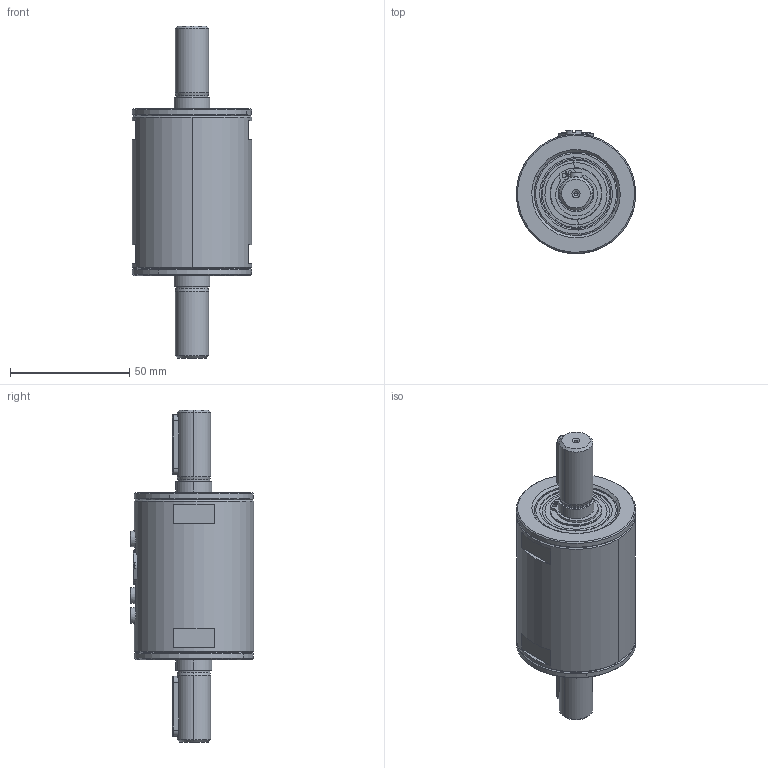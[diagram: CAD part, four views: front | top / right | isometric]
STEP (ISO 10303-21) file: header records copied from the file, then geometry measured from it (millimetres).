
FILE_DESCRIPTION (( 'STEP AP203' ), '1' );
FILE_NAME ('400006-ATS007-75Nm-15mm-Rund.STEP', '2017-02-20T10:10:04', ( '' ), ( '' ), 'SwSTEP 2.0', 'SolidWorks 2016', '' );
FILE_SCHEMA (( 'CONFIG_CONTROL_DESIGN' ));
Length unit declared in the file: millimetre
Products named in the file (15): 400006-ATE009-Binder-712-0416-90-05; Circlip DIN 471 - 15 x 1_Circlip DIN 471 - 15 x 1; 400006-ATM021_Lagerdeckel-15mm; 999999-ATM001_Tellerfeder_k_vorgespannt34,6x22,4x0,5_Standard; 400006-ATM023_Welle 15mm Rund; 400006-ATS021-PCB12_mit_Stecker_Welle 15mm; 999999-ATN172_Rillenkugellager_6202-2Z_Standard; 400006-ATM002-Mutter-Binder-Stecker; Parallel key A5 x 5 x 25 DIN 6885_Parallel key A5 x 5 x 25 DIN 6885; ISO 1207 - M4 x 4 --- 4S_ISO 1207 - M4 x 4 --- 4S; DIN 988-25x35x0.5_DIN 988-25x35x0.5; 400006-ATM003_Rohrgehäuse-50mm; ISO 1207 - M4 x 5 --- 5S_ISO 1207 - M4 x 5 --- 5S; ISO 4762 M3 x 5 --- 5S_DIN 912 M3 x 5 --- 5S; 400006-ATS007-75Nm-15mm-Rund
Assembly tree (22 placements, depth 3):
  400006-ATS007-75Nm-15mm-Rund
    400006-ATM023_Welle 15mm Rund
    400006-ATS021-PCB12_mit_Stecker_Welle 15mm
      400006-ATE009-Binder-712-0416-90-05
    ISO 4762 M3 x 5 --- 5S_DIN 912 M3 x 5 --- 5S  x4
    400006-ATM003_Rohrgehäuse-50mm
    400006-ATM021_Lagerdeckel-15mm  x2
    999999-ATM001_Tellerfeder_k_vorgespannt34,6x22,4x0,5_Standard
    DIN 988-25x35x0.5_DIN 988-25x35x0.5
    999999-ATN172_Rillenkugellager_6202-2Z_Standard  x2
    Circlip DIN 471 - 15 x 1_Circlip DIN 471 - 15 x 1  x2
    ISO 1207 - M4 x 5 --- 5S_ISO 1207 - M4 x 5 --- 5S  x2
    ISO 1207 - M4 x 4 --- 4S_ISO 1207 - M4 x 4 --- 4S
    Parallel key A5 x 5 x 25 DIN 6885_Parallel key A5 x 5 x 25 DIN 6885  x2
    400006-ATM002-Mutter-Binder-Stecker
Bounding box: 50 x 51.6 x 139 mm (x, y, z)
Volume: 84191.1 mm3; surface area: 60590.5 mm2
Topology: 43 solids, 43 shells, 1083 faces, 2607 edges, 1609 vertices
Faces by surface type: cylinder 352, cone 336, plane 251, torus 98, sphere 32, bspline 14
Entity records: 22790 total; most frequent: CARTESIAN_POINT 5155, DIRECTION 3563, ORIENTED_EDGE 3154, EDGE_CURVE 1577, AXIS2_PLACEMENT_3D 1484, VERTEX_POINT 990, CIRCLE 793, EDGE_LOOP 755
